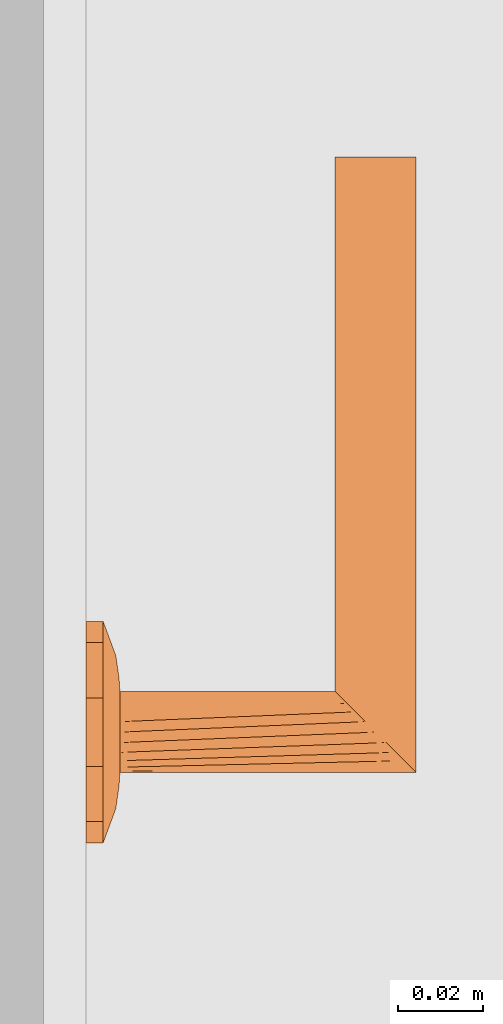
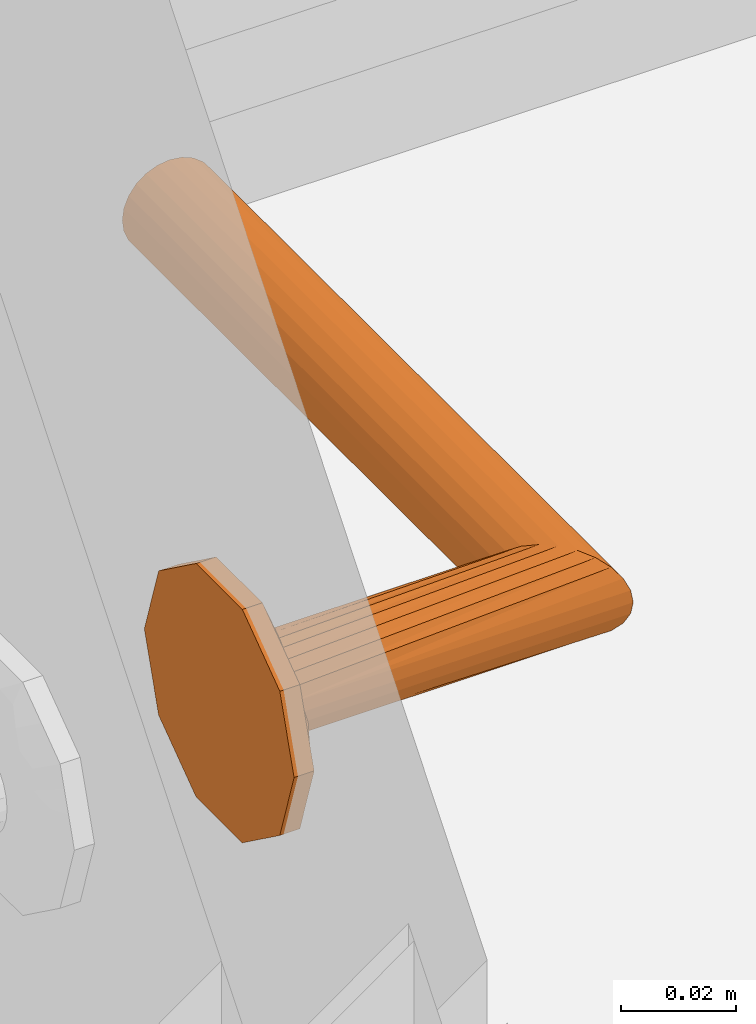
# One storey, part 43 of 57: 1 proxy.
"""IFC2X3 building model written with IfcOpenShell, lengths in millimetres."""

from ifc_helpers import new_model, entity, si_unit, converted_unit, direction, frame, origin, place, context, subcontext, project, spatial, faceted_brep, source, transform, mapped, material, type_object, type_shapes, element, save


model = new_model("IFC2X3")

# Units and contexts
model_context = context("Model", 3, precision=0.01, world=origin(), true_north=direction((6.123233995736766e-17, 1.0)))
plan_context = context("Plan", 3, precision=0.01, world=origin(), true_north=direction((6.123233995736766e-17, 1.0)))
body_context = subcontext(model_context, "Body", "Model", "MODEL_VIEW")
ifc_project = project(units=[si_unit("LENGTHUNIT", "METRE", prefix="MILLI"), converted_unit("PLANEANGLEUNIT", "DEGREE", entity("IfcPlaneAngleMeasure", 0.017453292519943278), si_unit("PLANEANGLEUNIT", "RADIAN"), dimensions=[0, 0, 0, 0, 0, 0, 0]), si_unit("AREAUNIT", "SQUARE_METRE")], contexts=[model_context, plan_context])

# Site, building, storey, space
site_placement = place(None, origin())
site = spatial("IfcSite", under=ifc_project, at=site_placement, Name="Default", CompositionType="ELEMENT")
building_placement = place(site_placement, origin())
building = spatial("IfcBuilding", under=site, at=building_placement, CompositionType="ELEMENT")
storey_placement = place(building_placement, frame((0.0, 0.0, 12811.000000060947)))
storey = spatial("IfcBuildingStorey", under=building, at=storey_placement, Name="5K", CompositionType="ELEMENT", Elevation=12811.000000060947)
space_placement = place(storey_placement, origin())
space = spatial("IfcSpace", under=storey, at=space_placement, Name="5-12.7", CompositionType="ELEMENT", InteriorOrExteriorSpace="INTERNAL")

# Proxy
ifc_material = material(Name="<Unnamed>")
building_element_proxy_type = type_object("IfcBuildingElementProxyType", Name="Door-handle_Lever_ABLOY_INOXI_3-19ss-002_RT:Default", PredefinedType="NOTDEFINED", material=ifc_material)
shared_shape = source(origin(), body_context, "Body", "Brep", [
    faceted_brep([(0.0, 0.0, 0.0), (8.034441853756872, 24.72746942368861, 0.0), (14.534441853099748, 20.00494299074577, 0.0), (21.034441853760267, 15.282416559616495, 0.0), (23.51722092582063, 7.641208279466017, 0.0), (26.0, 0.0, 0.0), (23.517220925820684, -7.641208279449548, 0.0), (0.0, 24.72746942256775, 0.0), (-8.034441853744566, 24.727469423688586, 0.0), (-14.534441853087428, 20.00494299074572, 0.0), (-21.03444185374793, 15.282416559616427, 0.0), (-23.517220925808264, 7.641208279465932, 0.0), (-26.0, 0.0, 0.0), (21.034441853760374, -15.282416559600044, 0.0), (14.534441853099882, -20.004942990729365, 0.0), (8.034441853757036, -24.72746942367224, 0.0), (0.0, -24.72746942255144, 0.0), (-23.517220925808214, -7.641208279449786, 0.0), (-21.034441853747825, -15.282416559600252, 0.0), (-14.53444185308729, -20.004942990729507, 0.0), (-8.0344418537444, -24.72746942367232, 0.0), (0.0, 0.0, 8.0), (9.500000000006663, 0.0, 8.0), (8.312500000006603, 2.056810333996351, 8.0), (7.125000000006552, 4.113620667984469, 8.0), (5.937500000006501, 6.170431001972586, 8.0), (4.7500000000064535, 8.227241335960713, 8.0), (2.375000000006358, 8.2272413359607, 8.0), (0.0, 8.227241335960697, 8.0), (-2.3749999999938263, 8.227241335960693, 8.0), (-4.749999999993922, 8.227241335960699, 8.0), (-5.937499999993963, 6.1704310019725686, 8.0), (-7.124999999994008, 4.1136206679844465, 8.0), (-8.312499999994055, 2.0568103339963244, 8.0), (-9.499999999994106, 0.0, 8.0), (-8.31249999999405, -2.0568103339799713, 8.0), (8.312500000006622, -2.0568103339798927, 8.0), (7.125000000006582, -4.113620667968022, 8.0), (5.937500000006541, -6.170431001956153, 8.0), (4.750000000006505, -8.227241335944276, 8.0), (-7.124999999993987, -4.113620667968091, 8.0), (-5.9374999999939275, -6.17043100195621, 8.0), (-4.74999999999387, -8.227241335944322, 8.0), (-2.374999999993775, -8.227241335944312, 8.0), (0.0, -8.227241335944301, 8.0), (2.3750000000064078, -8.227241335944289, 8.0), (-20.6430713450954, 6.292822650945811, 5.929480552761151), (-16.663919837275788, 7.932665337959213, 6.877259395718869), (-22.48876527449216, 10.806469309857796, 4.030771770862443), (-16.764060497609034, 3.8202578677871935, 7.1747985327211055), (-12.504579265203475, 5.179566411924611, 7.774932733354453), (-11.979136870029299, 13.678312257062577, 6.945778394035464), (-11.963426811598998, 8.62529041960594, 7.618343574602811), (-9.07172672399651, 10.31160661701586, 7.7520782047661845), (8.03444185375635, 24.727469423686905, 4.030771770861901), (0.0, 24.72746942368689, 4.030771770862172), (5.758554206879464, 20.96753300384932, 5.871476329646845), (20.643071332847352, 6.292822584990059, 5.929480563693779), (22.488765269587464, 10.806469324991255, 4.03077177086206), (16.66391982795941, 7.9326653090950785, 6.877259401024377), (9.49943163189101, 18.6436835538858, 6.154325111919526), (14.534441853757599, 20.004942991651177, 4.030771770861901), (-14.534441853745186, 20.00494299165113, 4.030771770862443), (-21.034441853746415, 15.282416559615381, 4.030771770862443), (-15.783149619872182, 11.991003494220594, 6.50080018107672), (-23.943088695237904, 6.330522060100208, 4.030771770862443), (-23.012042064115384, 0.0, 5.135401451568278), (12.50457924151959, 5.179566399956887, 7.774932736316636), (11.963426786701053, 8.625290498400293, 7.618343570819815), (16.76406041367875, 3.820257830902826, 7.17479855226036), (15.783149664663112, 11.991003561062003, 6.50080015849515), (23.01204200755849, 0.0, 5.135401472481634), (17.9853516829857, 0.0, 6.993737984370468), (8.661516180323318, 10.478936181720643, 7.768126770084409), (-3.3573143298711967, 21.197247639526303, 5.971427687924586), (-8.03444185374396, 24.727469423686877, 4.030771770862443), (-7.711266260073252, 12.76034452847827, 7.594456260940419), (-5.97325794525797, 16.43013906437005, 7.110979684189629), (-9.94191586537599, 17.061976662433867, 6.522757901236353), (11.979136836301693, 13.678312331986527, 6.945778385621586), (5.953298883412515, 16.50608604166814, 7.096344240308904), (7.511307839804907, 13.358932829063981, 7.529187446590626), (-1.5654593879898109, 15.307443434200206, 7.519134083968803), (-7.784980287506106, 20.476295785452, 5.812837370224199), (2.8135289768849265, 17.763922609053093, 6.993737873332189), (-17.985351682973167, 0.0, 6.993737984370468), (-26.0, 0.0, 4.030771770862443), (-23.51722092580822, 7.641208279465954, 4.030771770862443), (26.0, 0.0, 4.030771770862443), (24.308823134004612, 5.204907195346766, 4.030771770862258), (23.943088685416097, 6.330522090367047, 4.030771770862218), (21.03444185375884, 15.282416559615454, 4.030771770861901), (22.617646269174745, 10.40981439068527, 4.030771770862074), (20.6430713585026, -6.292822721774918, 5.929480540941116), (16.663919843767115, -7.932665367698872, 6.877259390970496), (22.48876527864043, -10.8064692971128, 4.030771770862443), (16.764060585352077, -3.8202579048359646, 7.174798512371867), (12.504579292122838, -5.17956641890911, 7.774932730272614), (11.979136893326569, -13.678312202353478, 6.9457784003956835), (11.963426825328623, -8.62529034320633, 7.618343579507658), (9.071726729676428, -10.311606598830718, 7.752078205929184), (-8.03444185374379, -24.727469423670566, 4.030771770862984), (0.0, -24.727469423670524, 4.030771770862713), (-5.758554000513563, -20.96753314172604, 5.8714763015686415), (-20.643071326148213, -6.292822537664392, 5.929480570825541), (-22.488765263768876, -10.80646934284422, 4.030771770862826), (-16.66391981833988, -7.932665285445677, 6.877259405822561), (-9.499431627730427, -18.643683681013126, 6.154325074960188), (-14.534441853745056, -20.004942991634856, 4.030771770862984), (14.53444185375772, -20.00494299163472, 4.030771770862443), (21.034441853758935, -15.282416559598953, 4.030771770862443), (15.783149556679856, -11.991003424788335, 6.5008002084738), (23.943088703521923, -6.330522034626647, 4.030771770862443), (-12.504579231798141, -5.17956638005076, 7.77493273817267), (-11.963426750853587, -8.625290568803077, 7.618343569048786), (-16.764060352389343, -3.8202577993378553, 7.174798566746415), (-15.783149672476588, -11.991003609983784, 6.500800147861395), (-8.661516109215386, -10.478936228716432, 7.768126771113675), (3.3573144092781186, -21.197247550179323, 5.971427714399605), (8.034441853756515, -24.727469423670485, 4.030771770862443), (7.711266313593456, -12.760344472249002, 7.5944562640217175), (5.9732581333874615, -16.430139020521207, 7.110979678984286), (9.941915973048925, -17.06197655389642, 6.522757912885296), (-11.979136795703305, -13.678312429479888, 6.945778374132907), (-5.953298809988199, -16.506086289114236, 7.096344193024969), (-7.511307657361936, -13.358932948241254, 7.5291874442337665), (1.5654596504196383, -15.3074431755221, 7.519134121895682), (7.784980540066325, -20.476295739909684, 5.812837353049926), (-2.81352881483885, -17.76392263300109, 6.993737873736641), (23.517220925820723, -7.64120827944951, 4.030771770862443), (-24.308823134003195, -5.20490719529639, 4.030771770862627), (-23.943088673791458, -6.330522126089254, 4.030771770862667), (-21.034441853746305, -15.282416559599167, 4.030771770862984), (-22.617646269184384, -10.409814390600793, 4.0307717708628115)], [[[0, 1, 2]], [[0, 2, 3]], [[0, 3, 4]], [[0, 4, 5]], [[0, 5, 6]], [[0, 7, 1]], [[0, 8, 7]], [[0, 9, 8]], [[0, 10, 9]], [[0, 11, 10]], [[0, 12, 11]], [[0, 6, 13]], [[0, 13, 14]], [[0, 14, 15]], [[0, 15, 16]], [[0, 17, 12]], [[0, 18, 17]], [[0, 19, 18]], [[0, 20, 19]], [[0, 16, 20]], [[21, 22, 23]], [[21, 23, 24]], [[21, 24, 25]], [[21, 25, 26]], [[21, 26, 27]], [[21, 27, 28]], [[21, 28, 29]], [[21, 29, 30]], [[21, 30, 31]], [[21, 31, 32]], [[21, 32, 33]], [[21, 33, 34]], [[21, 34, 35]], [[21, 36, 22]], [[21, 37, 36]], [[21, 38, 37]], [[21, 39, 38]], [[21, 35, 40]], [[21, 40, 41]], [[21, 41, 42]], [[21, 42, 43]], [[21, 43, 44]], [[21, 44, 45]], [[21, 45, 39]], [[46, 47, 48]], [[49, 50, 47]], [[33, 32, 50]], [[51, 52, 53]], [[32, 52, 50]], [[49, 47, 46]], [[54, 55, 56]], [[57, 58, 59]], [[60, 61, 54]], [[62, 63, 64]], [[46, 65, 66]], [[67, 59, 68]], [[23, 69, 67]], [[70, 68, 59]], [[23, 22, 69]], [[52, 51, 64]], [[71, 69, 72]], [[73, 25, 68]], [[74, 55, 75]], [[76, 77, 78]], [[70, 61, 79]], [[71, 57, 69]], [[60, 80, 81]], [[51, 76, 78]], [[77, 29, 82]], [[26, 81, 27]], [[74, 83, 77]], [[77, 82, 74]], [[74, 84, 55]], [[34, 49, 85]], [[23, 67, 24]], [[28, 84, 82]], [[74, 82, 84]], [[29, 76, 30]], [[29, 28, 82]], [[49, 34, 33]], [[47, 50, 52]], [[47, 52, 64]], [[50, 49, 33]], [[53, 76, 51]], [[52, 32, 31]], [[49, 66, 85]], [[86, 66, 65]], [[24, 67, 68]], [[83, 78, 77]], [[49, 46, 66]], [[48, 64, 63]], [[46, 48, 87, 65]], [[48, 47, 64]], [[59, 67, 69]], [[26, 73, 81]], [[79, 68, 70]], [[25, 24, 68]], [[71, 88, 89, 90]], [[22, 72, 69]], [[59, 69, 57]], [[79, 61, 60]], [[51, 62, 64]], [[70, 58, 91]], [[90, 57, 71]], [[58, 70, 59]], [[57, 90, 92]], [[79, 60, 81]], [[61, 70, 91]], [[56, 80, 60]], [[79, 81, 73]], [[80, 84, 27]], [[79, 73, 68]], [[27, 84, 28]], [[25, 73, 26]], [[77, 76, 29]], [[31, 30, 53]], [[78, 62, 51]], [[75, 62, 83]], [[78, 83, 62]], [[75, 83, 74]], [[76, 53, 30]], [[31, 53, 52]], [[81, 80, 27]], [[84, 80, 56]], [[84, 56, 55]], [[54, 56, 60]], [[93, 94, 95]], [[96, 97, 94]], [[36, 37, 97]], [[98, 99, 100]], [[37, 99, 97]], [[96, 94, 93]], [[101, 102, 103]], [[104, 105, 106]], [[107, 108, 101]], [[109, 110, 111]], [[93, 112, 71]], [[113, 106, 114]], [[35, 115, 113]], [[116, 114, 106]], [[35, 34, 115]], [[99, 98, 111]], [[66, 115, 85]], [[117, 41, 114]], [[118, 102, 119]], [[120, 121, 122]], [[116, 108, 123]], [[66, 104, 115]], [[107, 124, 125]], [[120, 45, 121]], [[121, 45, 126]], [[42, 125, 43]], [[118, 127, 121]], [[121, 126, 118]], [[118, 128, 102]], [[22, 96, 72]], [[35, 113, 40]], [[44, 128, 126]], [[118, 126, 128]], [[45, 120, 39]], [[45, 44, 126]], [[96, 22, 36]], [[94, 97, 99]], [[94, 99, 111]], [[97, 96, 36]], [[100, 120, 98]], [[99, 37, 38]], [[96, 71, 72]], [[88, 71, 112]], [[40, 113, 114]], [[127, 122, 121]], [[96, 93, 71]], [[95, 111, 110]], [[93, 95, 129, 112]], [[95, 94, 111]], [[106, 113, 115]], [[42, 117, 125]], [[123, 114, 116]], [[41, 40, 114]], [[66, 86, 130, 131]], [[34, 85, 115]], [[106, 115, 104]], [[123, 108, 107]], [[98, 109, 111]], [[116, 105, 132]], [[131, 104, 66]], [[105, 116, 106]], [[104, 131, 133]], [[123, 107, 125]], [[108, 116, 132]], [[103, 124, 107]], [[123, 125, 117]], [[124, 128, 43]], [[123, 117, 114]], [[43, 128, 44]], [[41, 117, 42]], [[38, 39, 100]], [[98, 120, 122]], [[122, 109, 98]], [[119, 109, 127]], [[122, 127, 109]], [[119, 127, 118]], [[120, 100, 39]], [[38, 100, 99]], [[125, 124, 43]], [[128, 124, 103]], [[128, 103, 102]], [[101, 103, 107]], [[9, 10, 63, 62, 75, 8]], [[11, 12, 86, 65, 87, 48, 63, 10]], [[4, 3, 92, 90, 89, 88, 5]], [[3, 91, 58]], [[55, 54, 1, 7, 8, 75]], [[3, 2, 1, 54, 61, 91]], [[13, 6, 5, 88, 112, 129, 95, 110]], [[119, 15, 14, 13, 110, 109]], [[17, 18, 133, 131, 130, 86, 12]], [[18, 132, 105]], [[102, 101, 20, 16, 15, 119]], [[18, 19, 20, 101, 108, 132]], [[57, 92, 58]], [[104, 133, 105]], [[3, 58, 92]], [[18, 105, 133]]]),
    faceted_brep([(0.0, 9.499999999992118, 8.0), (2.4587809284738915, 9.176295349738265, 8.0), (4.7499999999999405, 8.22724133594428, 8.0), (6.717514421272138, 6.7175144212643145, 8.0), (8.227241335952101, 4.749999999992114, 8.0), (9.17629534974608, 2.458780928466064, 8.0), (9.499999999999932, 0.0, 8.0), (9.17629534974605, -2.458780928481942, 8.0), (8.22724133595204, -4.75000000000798, 8.0), (6.717514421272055, -6.717514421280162, 8.0), (4.7499999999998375, -8.227241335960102, 8.0), (2.4587809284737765, -9.176295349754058, 8.0), (0.0, -9.500000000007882, 8.0), (-2.4587809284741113, -9.176295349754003, 8.0), (-4.750000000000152, -8.227241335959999, 8.0), (-6.717514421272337, -6.717514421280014, 8.0), (-8.227241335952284, -4.750000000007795, 8.0), (-9.176295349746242, -2.458780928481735, 8.0), (-9.500000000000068, 0.0, 8.0), (-9.176295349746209, 2.4587809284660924, 8.0), (-8.227241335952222, 4.74999999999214, 8.0), (-6.717514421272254, 6.717514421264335, 8.0), (-4.7500000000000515, 8.227241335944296, 8.0), (-2.4587809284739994, 9.176295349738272, 8.0), (-6.717514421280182, -6.7175144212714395, 61.282485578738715), (-8.227241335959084, -4.7499999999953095, 59.772758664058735), (-9.176295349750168, -2.458780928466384, 58.82370465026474), (-2.4587809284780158, -9.176295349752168, 65.54121907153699), (-4.750000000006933, -8.227241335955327, 63.25000000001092), (-9.500000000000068, 0.0, 58.50000000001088), (0.0, -9.50000000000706, 68.0), (2.4587809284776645, -9.17629534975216, 70.45878092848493), (4.750000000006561, -8.227241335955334, 72.75000000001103), (6.717514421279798, -6.7175144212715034, 74.71751442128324), (9.17629534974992, -2.458780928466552, 77.17629534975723), (8.22724133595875, -4.749999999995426, 76.22724133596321), (9.499999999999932, 0.0, 77.50000000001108), (9.176295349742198, 2.4587809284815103, 77.1762953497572), (8.227241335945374, 4.750000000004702, 76.22724133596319), (4.749999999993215, 8.227241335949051, 72.75000000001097), (6.7175144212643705, 6.717514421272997, 74.7175144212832), (2.4587809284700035, 9.17629534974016, 70.45878092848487), (-2.4587809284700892, 9.176295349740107, 65.54121907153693), (0.0, 9.49999999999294, 68.0), (-6.717514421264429, 6.717514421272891, 61.282485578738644), (-4.749999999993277, 8.227241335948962, 63.250000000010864), (-9.176295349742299, 2.458780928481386, 58.8237046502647), (-8.227241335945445, 4.750000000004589, 59.77275866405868), (-135.0, 9.500000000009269, 68.0), (-135.0, 9.176295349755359, 65.54121907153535), (-135.0, 8.227241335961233, 63.25000000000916), (-135.0, 6.7175144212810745, 61.28248557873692), (-135.0, 4.750000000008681, 59.772758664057), (-135.0, 2.458780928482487, 58.82370465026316), (-135.0, 0.0, 58.50000000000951), (-135.0, -2.458780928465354, 58.823704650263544), (-135.0, -4.749999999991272, 59.772758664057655), (-135.0, -6.717514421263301, 61.28248557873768), (-135.0, -8.227241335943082, 63.250000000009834), (-135.0, -9.17629534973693, 65.54121907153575), (-135.0, -9.499999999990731, 68.0), (-135.0, -9.17629534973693, 70.45878092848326), (-135.0, -8.227241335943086, 72.75000000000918), (-135.0, -6.717514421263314, 74.71751442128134), (-135.0, -4.749999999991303, 76.22724133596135), (-135.0, -2.4587809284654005, 77.17629534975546), (-135.0, 0.0, 77.5000000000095), (-135.0, 2.4587809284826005, 77.17629534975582), (-135.0, 4.750000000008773, 76.22724133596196), (-135.0, 6.717514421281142, 74.71751442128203), (-135.0, 8.227241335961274, 72.75000000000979), (-135.0, 9.176295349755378, 70.4587809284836)], [[[0, 1, 2, 3, 4, 5, 6, 7, 8, 9, 10, 11, 12, 13, 14, 15, 16, 17, 18, 19, 20, 21, 22, 23]], [[15, 24, 25, 16]], [[16, 25, 26, 17]], [[27, 28, 12]], [[12, 28, 13]], [[13, 28, 24]], [[18, 17, 26, 29]], [[24, 15, 14]], [[14, 13, 24]], [[11, 30, 27]], [[31, 9, 32]], [[32, 8, 33]], [[34, 35, 7]], [[7, 35, 33]], [[36, 34, 7, 6]], [[30, 11, 10]], [[11, 27, 12]], [[33, 8, 7]], [[8, 32, 9]], [[31, 10, 9]], [[10, 31, 30]], [[37, 36, 6, 5]], [[37, 5, 38]], [[39, 40, 4]], [[5, 40, 38]], [[41, 39, 3]], [[5, 4, 40]], [[42, 43, 1]], [[2, 1, 43]], [[2, 41, 3]], [[39, 4, 3]], [[2, 43, 41]], [[23, 44, 45]], [[0, 45, 42]], [[19, 18, 29, 46]], [[20, 19, 46, 47]], [[21, 20, 47, 44]], [[23, 22, 44]], [[45, 0, 23]], [[44, 22, 21]], [[1, 0, 42]], [[48, 49, 50, 51, 52, 53, 54, 55, 56, 57, 58, 59, 60, 61, 62, 63, 64, 65, 66, 67, 68, 69, 70, 71]], [[26, 25, 56, 55]], [[29, 26, 55, 54]], [[28, 27, 59, 58]], [[24, 28, 58, 57]], [[25, 24, 57, 56]], [[27, 30, 60, 59]], [[32, 33, 63, 62]], [[31, 32, 62, 61]], [[34, 36, 66, 65]], [[35, 34, 65, 64]], [[33, 35, 64, 63]], [[61, 60, 30, 31]], [[38, 68, 67, 37]], [[37, 67, 66, 36]], [[41, 71, 70, 39]], [[39, 70, 69, 40]], [[40, 69, 68, 38]], [[48, 71, 41, 43]], [[44, 51, 50, 45]], [[45, 50, 49, 42]], [[29, 54, 53, 46]], [[46, 53, 52, 47]], [[47, 52, 51, 44]], [[42, 49, 48, 43]]]),
])
type_shapes(building_element_proxy_type, [shared_shape])
proxy_placement = place(space_placement, frame((7342.0, 3418.0, 1000.0), z_axis=(1.0, 0.0, 0.0), x_axis=(0.0, -1.0, 0.0)))
element("IfcBuildingElementProxy", 1, at=proxy_placement, inside=space, type_object=building_element_proxy_type, material=ifc_material, Name="Door-handle_Lever_ABLOY_INOXI_3-19ss-002_RT:Default", ObjectType="Door-handle_Lever_ABLOY_INOXI_3-19ss-002_RT:Default", context=body_context, shape_type="MappedRepresentation", body=[
    mapped(shared_shape, transform((0.0, 0.0, 0.0), scale=1.0)),
])

save(model, "model.ifc")
